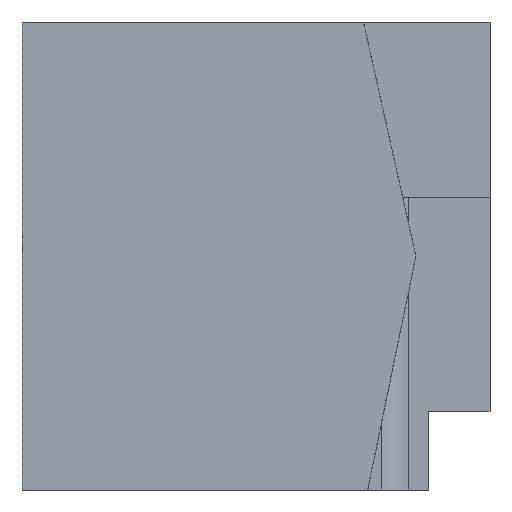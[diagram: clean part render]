
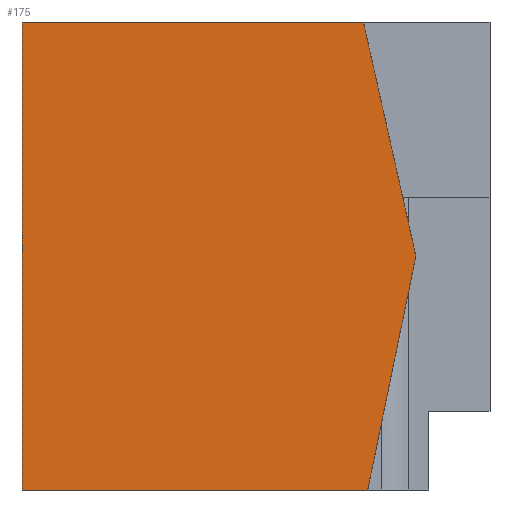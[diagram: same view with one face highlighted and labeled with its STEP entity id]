
A CAD part, left-side view. The second image highlights one B-rep face of the part: STEP entity #175.
In plain terms, the highlighted planar face has unit normal (-1, 0, 0).
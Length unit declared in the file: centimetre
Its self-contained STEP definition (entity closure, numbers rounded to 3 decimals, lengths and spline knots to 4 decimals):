
#31 = CARTESIAN_POINT ( 'NONE',  ( 0., 158.5065, 500. ) ) ;
#32 = DIRECTION ( 'NONE',  ( 0., 0., -1. ) ) ;
#36 = CARTESIAN_POINT ( 'NONE',  ( 0., 1000., 1000. ) ) ;
#88 = CARTESIAN_POINT ( 'NONE',  ( 0., 261.5061, 0. ) ) ;
#92 = ORIENTED_EDGE ( 'NONE', *, *, #500, .T. ) ;
#125 = VECTOR ( 'NONE', #935, 100. ) ;
#137 = AXIS2_PLACEMENT_3D ( 'NONE', #738, #1032, #32 ) ;
#143 = PLANE ( 'NONE',  #137 ) ;
#144 = VECTOR ( 'NONE', #409, 100. ) ;
#146 = VECTOR ( 'NONE', #773, 100. ) ;
#175 = ADVANCED_FACE ( 'NONE', ( #933 ), #143, .F. ) ;
#244 = VERTEX_POINT ( 'NONE', #940 ) ;
#320 = ORIENTED_EDGE ( 'NONE', *, *, #1278, .F. ) ;
#379 = VERTEX_POINT ( 'NONE', #1187 ) ;
#409 = DIRECTION ( 'NONE',  ( 0., 0., -1. ) ) ;
#423 = LINE ( 'NONE', #36, #144 ) ;
#500 = EDGE_CURVE ( 'NONE', #379, #918, #900, .T. ) ;
#505 = DIRECTION ( 'NONE',  ( 0., -1., 0. ) ) ;
#522 = LINE ( 'NONE', #612, #1163 ) ;
#545 = EDGE_CURVE ( 'NONE', #244, #869, #522, .T. ) ;
#553 = EDGE_CURVE ( 'NONE', #244, #379, #423, .T. ) ;
#579 = CARTESIAN_POINT ( 'NONE',  ( 0., 270.6048, 1000. ) ) ;
#612 = CARTESIAN_POINT ( 'NONE',  ( 0., 1000., 1000. ) ) ;
#738 = CARTESIAN_POINT ( 'NONE',  ( 0., 1000., 1000. ) ) ;
#773 = DIRECTION ( 'NONE',  ( 0., 0.202, -0.979 ) ) ;
#789 = LINE ( 'NONE', #1069, #146 ) ;
#818 = LINE ( 'NONE', #1208, #125 ) ;
#828 = DIRECTION ( 'NONE',  ( 0., -1., 0. ) ) ;
#850 = EDGE_LOOP ( 'NONE', ( #92, #320, #1257, #1041, #1127 ) ) ;
#869 = VERTEX_POINT ( 'NONE', #579 ) ;
#900 = LINE ( 'NONE', #1003, #1245 ) ;
#918 = VERTEX_POINT ( 'NONE', #88 ) ;
#933 = FACE_OUTER_BOUND ( 'NONE', #850, .T. ) ;
#935 = DIRECTION ( 'NONE',  ( 0., -0.219, -0.976 ) ) ;
#940 = CARTESIAN_POINT ( 'NONE',  ( 0., 1000., 1000. ) ) ;
#1003 = CARTESIAN_POINT ( 'NONE',  ( 0., 1000., 0. ) ) ;
#1018 = VERTEX_POINT ( 'NONE', #31 ) ;
#1032 = DIRECTION ( 'NONE',  ( 1., 0., 0. ) ) ;
#1041 = ORIENTED_EDGE ( 'NONE', *, *, #545, .F. ) ;
#1069 = CARTESIAN_POINT ( 'NONE',  ( 0., 158.5065, 500. ) ) ;
#1071 = EDGE_CURVE ( 'NONE', #869, #1018, #818, .T. ) ;
#1127 = ORIENTED_EDGE ( 'NONE', *, *, #553, .T. ) ;
#1163 = VECTOR ( 'NONE', #828, 100. ) ;
#1187 = CARTESIAN_POINT ( 'NONE',  ( 0., 1000., 0. ) ) ;
#1208 = CARTESIAN_POINT ( 'NONE',  ( 0., 270.6048, 1000. ) ) ;
#1245 = VECTOR ( 'NONE', #505, 100. ) ;
#1257 = ORIENTED_EDGE ( 'NONE', *, *, #1071, .F. ) ;
#1278 = EDGE_CURVE ( 'NONE', #1018, #918, #789, .T. ) ;
